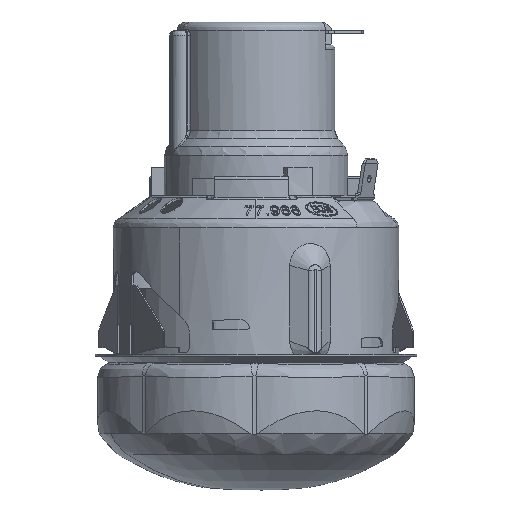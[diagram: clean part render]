
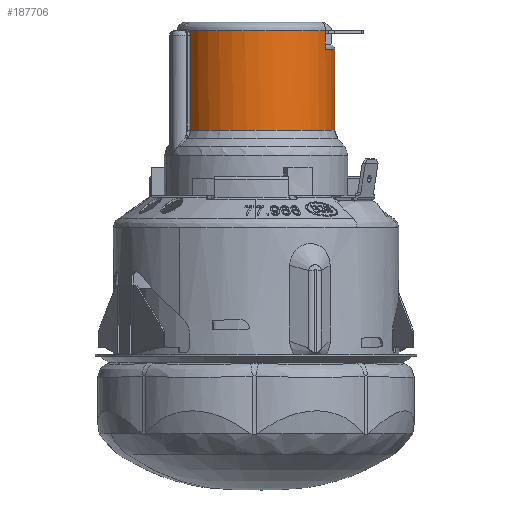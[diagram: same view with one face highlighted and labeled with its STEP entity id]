
A CAD part, left-side view. The second image highlights one B-rep face of the part: STEP entity #187706.
In plain terms, the highlighted cylindrical face has radius 18 mm (diameter 36 mm), a partial arc.
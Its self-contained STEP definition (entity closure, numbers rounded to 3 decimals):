
#172181=CARTESIAN_POINT(' ',(17.743,-3.034,2.));
#172182=VERTEX_POINT(' ',#172181);
#172196=CARTESIAN_POINT(' ',(-0.002,0.005,2.));
#172201=DIRECTION(' ',(0.,0.,1.));
#172206=DIRECTION(' ',(-0.632,-0.775,0.));
#172211=AXIS2_PLACEMENT_3D(' ',#172196,#172201,#172206);
#172216=CIRCLE('',#172211,18.004);
#172221=CARTESIAN_POINT(' ',(-11.389,-13.94,2.));
#172222=VERTEX_POINT(' ',#172221);
#172226=EDGE_CURVE(' ',#172222,#172182,#172216,.T.);
#172346=CARTESIAN_POINT(' ',(-11.389,-13.939,6.2));
#172351=DIRECTION(' ',(0.,0.,-1.));
#172356=VECTOR(' ',#172351,1.);
#172361=LINE('',#172346,#172356);
#172366=CARTESIAN_POINT(' ',(-11.389,-13.939,6.2));
#172367=VERTEX_POINT(' ',#172366);
#172371=EDGE_CURVE(' ',#172367,#172222,#172361,.T.);
#172956=CARTESIAN_POINT(' ',(-17.937,-1.5,1.5));
#172961=DIRECTION(' ',(0.,0.,1.));
#172966=VECTOR(' ',#172961,1.);
#172971=LINE('',#172956,#172966);
#172976=CARTESIAN_POINT(' ',(-17.937,-1.5,1.5));
#172977=VERTEX_POINT(' ',#172976);
#172981=CARTESIAN_POINT(' ',(-17.937,-1.5,6.2));
#172982=VERTEX_POINT(' ',#172981);
#172986=EDGE_CURVE(' ',#172977,#172982,#172971,.T.);
#173171=CARTESIAN_POINT(' ',(0.,0.,1.496));
#173176=DIRECTION(' ',(0.,0.,1.));
#173181=DIRECTION(' ',(-1.,0.,0.));
#173186=AXIS2_PLACEMENT_3D(' ',#173171,#173176,#173181);
#173191=CIRCLE('',#173186,18.);
#173196=CARTESIAN_POINT(' ',(-18.,0.,1.5));
#173197=VERTEX_POINT(' ',#173196);
#173201=EDGE_CURVE(' ',#173197,#172977,#173191,.T.);
#186081=CARTESIAN_POINT(' ',(-18.,0.,1.5));
#186086=DIRECTION(' ',(0.,0.,1.));
#186091=VECTOR(' ',#186086,1.);
#186096=LINE('',#186081,#186091);
#186101=CARTESIAN_POINT(' ',(-18.,0.,24.681));
#186102=VERTEX_POINT(' ',#186101);
#186106=EDGE_CURVE(' ',#173197,#186102,#186096,.T.);
#187501=CARTESIAN_POINT(' ',(0.,0.,22.5));
#187506=DIRECTION(' ',(0.,0.,-1.));
#187511=DIRECTION(' ',(0.986,-0.169,-0.));
#187516=AXIS2_PLACEMENT_3D(' ',#187501,#187506,#187511);
#187521=CYLINDRICAL_SURFACE(' ',#187516,18.);
#187526=ORIENTED_EDGE(' ',*,*,#186106,.F.);
#187531=ORIENTED_EDGE(' ',*,*,#173201,.T.);
#187536=ORIENTED_EDGE(' ',*,*,#172986,.T.);
#187541=CARTESIAN_POINT(' ',(0.,0.,6.2));
#187546=DIRECTION(' ',(0.,0.,1.));
#187551=DIRECTION(' ',(-0.997,-0.083,0.));
#187556=AXIS2_PLACEMENT_3D(' ',#187541,#187546,#187551);
#187561=CIRCLE('',#187556,18.);
#187566=EDGE_CURVE(' ',#172982,#172367,#187561,.T.);
#187571=ORIENTED_EDGE(' ',*,*,#187566,.T.);
#187576=ORIENTED_EDGE(' ',*,*,#172371,.T.);
#187581=ORIENTED_EDGE(' ',*,*,#172226,.T.);
#187586=CARTESIAN_POINT(' ',(17.942,-1.916,3.));
#187591=DIRECTION(' ',(-0.984,0.176,-0.002));
#187596=DIRECTION(' ',(-0.131,-0.739,-0.661));
#187601=AXIS2_PLACEMENT_3D(' ',#187586,#187591,#187596);
#187606=CIRCLE('',#187601,1.513);
#187611=CARTESIAN_POINT(' ',(17.675,-3.405,3.));
#187612=VERTEX_POINT(' ',#187611);
#187616=EDGE_CURVE(' ',#172182,#187612,#187606,.T.);
#187621=ORIENTED_EDGE(' ',*,*,#187616,.T.);
#187626=CARTESIAN_POINT(' ',(17.675,-3.405,3.));
#187631=DIRECTION(' ',(0.,0.,1.));
#187636=VECTOR(' ',#187631,1.);
#187641=LINE('',#187626,#187636);
#187646=CARTESIAN_POINT(' ',(17.675,-3.405,24.681));
#187647=VERTEX_POINT(' ',#187646);
#187651=EDGE_CURVE(' ',#187612,#187647,#187641,.T.);
#187656=ORIENTED_EDGE(' ',*,*,#187651,.T.);
#187661=CARTESIAN_POINT(' ',(0.,0.,24.681));
#187666=DIRECTION(' ',(0.,0.,-1.));
#187671=DIRECTION(' ',(0.982,-0.189,0.));
#187676=AXIS2_PLACEMENT_3D(' ',#187661,#187666,#187671);
#187681=CIRCLE('',#187676,18.);
#187686=EDGE_CURVE(' ',#187647,#186102,#187681,.T.);
#187691=ORIENTED_EDGE(' ',*,*,#187686,.T.);
#187696=EDGE_LOOP(' ',(#187526,#187531,#187536,#187571,#187576,#187581,#187621,#187656,#187691));
#187701=FACE_OUTER_BOUND(' ',#187696,.T.);
#187706=ADVANCED_FACE('',(#187701),#187521,.T.);
